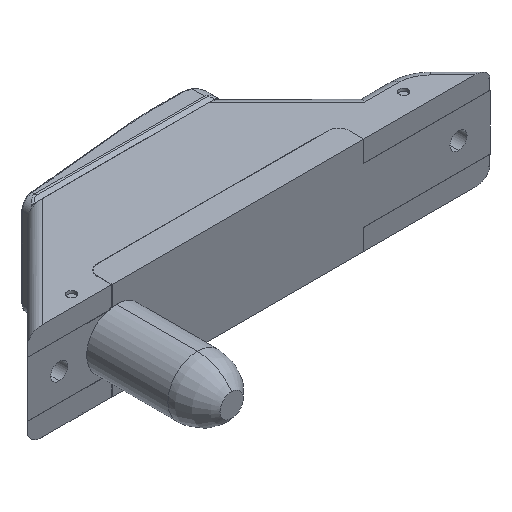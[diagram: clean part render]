
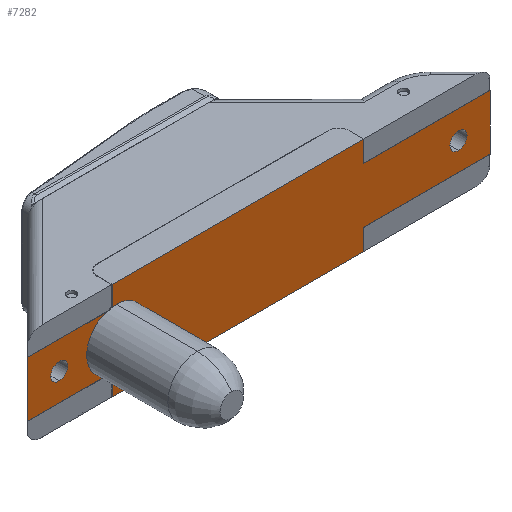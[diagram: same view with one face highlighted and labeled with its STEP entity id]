
A CAD part, isometric view. The second image highlights one B-rep face of the part: STEP entity #7282.
In plain terms, the highlighted planar face has unit normal (0, -1, 0).
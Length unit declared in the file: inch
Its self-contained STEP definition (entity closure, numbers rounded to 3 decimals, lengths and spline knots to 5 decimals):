
#256 = DIRECTION ( 'NONE',  ( 1., 0., 0. ) ) ;
#645 = VERTEX_POINT ( 'NONE', #10518 ) ;
#721 = AXIS2_PLACEMENT_3D ( 'NONE', #12316, #19753, #5145 ) ;
#751 = LINE ( 'NONE', #17340, #13006 ) ;
#1082 = EDGE_CURVE ( 'NONE', #11767, #3046, #7581, .T. ) ;
#1728 = ORIENTED_EDGE ( 'NONE', *, *, #21651, .F. ) ;
#1779 = DIRECTION ( 'NONE',  ( 0., 1., 0. ) ) ;
#1852 = VECTOR ( 'NONE', #8004, 39.37008 ) ;
#2121 = ORIENTED_EDGE ( 'NONE', *, *, #2575, .T. ) ;
#2172 = EDGE_LOOP ( 'NONE', ( #8012, #22406 ) ) ;
#2292 = CARTESIAN_POINT ( 'NONE',  ( -1.7475, 0., -0.3295 ) ) ;
#2575 = EDGE_CURVE ( 'NONE', #12322, #19292, #22294, .T. ) ;
#2717 = EDGE_CURVE ( 'NONE', #645, #20042, #22975, .T. ) ;
#3046 = VERTEX_POINT ( 'NONE', #3375 ) ;
#3112 = ORIENTED_EDGE ( 'NONE', *, *, #18603, .T. ) ;
#3375 = CARTESIAN_POINT ( 'NONE',  ( 2.75, 0., 0.3295 ) ) ;
#3533 = DIRECTION ( 'NONE',  ( 0., 0., 1. ) ) ;
#3560 = DIRECTION ( 'NONE',  ( 0., 0., -1. ) ) ;
#3926 = VERTEX_POINT ( 'NONE', #20577 ) ;
#3939 = CARTESIAN_POINT ( 'NONE',  ( -2.75, 0., 0.3295 ) ) ;
#4244 = VERTEX_POINT ( 'NONE', #21655 ) ;
#4393 = AXIS2_PLACEMENT_3D ( 'NONE', #16802, #11407, #18379 ) ;
#4523 = LINE ( 'NONE', #11947, #18668 ) ;
#4531 = DIRECTION ( 'NONE',  ( 0., 0., 1. ) ) ;
#4889 = PLANE ( 'NONE',  #721 ) ;
#5145 = DIRECTION ( 'NONE',  ( -1., 0., 0. ) ) ;
#5361 = AXIS2_PLACEMENT_3D ( 'NONE', #18491, #1779, #18254 ) ;
#5395 = VERTEX_POINT ( 'NONE', #21237 ) ;
#5431 = VERTEX_POINT ( 'NONE', #10390 ) ;
#5492 = VERTEX_POINT ( 'NONE', #12221 ) ;
#6142 = EDGE_CURVE ( 'NONE', #5492, #4244, #21173, .T. ) ;
#6215 = DIRECTION ( 'NONE',  ( 0., 0., 1. ) ) ;
#6292 = CARTESIAN_POINT ( 'NONE',  ( -2.75, 0., -0.3295 ) ) ;
#6329 = ORIENTED_EDGE ( 'NONE', *, *, #23111, .T. ) ;
#6549 = VECTOR ( 'NONE', #18683, 39.37008 ) ;
#6588 = CARTESIAN_POINT ( 'NONE',  ( 1.2475, 0., 0.3295 ) ) ;
#6830 = EDGE_CURVE ( 'NONE', #17637, #20972, #16984, .T. ) ;
#7037 = EDGE_CURVE ( 'NONE', #5395, #5431, #20561, .T. ) ;
#7069 = DIRECTION ( 'NONE',  ( 0., 1., 0. ) ) ;
#7282 = ADVANCED_FACE ( 'NONE', ( #9140, #21578, #17954 ), #4889, .F. ) ;
#7323 = ORIENTED_EDGE ( 'NONE', *, *, #7641, .T. ) ;
#7332 = ORIENTED_EDGE ( 'NONE', *, *, #16419, .F. ) ;
#7581 = LINE ( 'NONE', #3939, #19669 ) ;
#7641 = EDGE_CURVE ( 'NONE', #11767, #12177, #8272, .T. ) ;
#7983 = DIRECTION ( 'NONE',  ( -1., 0., 0. ) ) ;
#8004 = DIRECTION ( 'NONE',  ( 0., 0., -1. ) ) ;
#8012 = ORIENTED_EDGE ( 'NONE', *, *, #7037, .T. ) ;
#8160 = ORIENTED_EDGE ( 'NONE', *, *, #1082, .F. ) ;
#8272 = LINE ( 'NONE', #13999, #22144 ) ;
#8630 = VERTEX_POINT ( 'NONE', #19584 ) ;
#9140 = FACE_BOUND ( 'NONE', #2172, .T. ) ;
#9239 = CARTESIAN_POINT ( 'NONE',  ( 2.375, 0., 0. ) ) ;
#9565 = EDGE_CURVE ( 'NONE', #5431, #5395, #14679, .T. ) ;
#10046 = CARTESIAN_POINT ( 'NONE',  ( 2.375, 0., -0.102 ) ) ;
#10245 = DIRECTION ( 'NONE',  ( 1., 0., 0. ) ) ;
#10248 = CARTESIAN_POINT ( 'NONE',  ( -2.375, 0., 0. ) ) ;
#10390 = CARTESIAN_POINT ( 'NONE',  ( -2.375, 0., -0.102 ) ) ;
#10518 = CARTESIAN_POINT ( 'NONE',  ( 2.75, 0., -0.3295 ) ) ;
#11299 = CARTESIAN_POINT ( 'NONE',  ( 1.2475, 0., -0.3295 ) ) ;
#11407 = DIRECTION ( 'NONE',  ( 0., 1., 0. ) ) ;
#11448 = VECTOR ( 'NONE', #17072, 39.37008 ) ;
#11574 = EDGE_CURVE ( 'NONE', #20042, #8630, #18436, .T. ) ;
#11630 = CIRCLE ( 'NONE', #17480, 0.102 ) ;
#11767 = VERTEX_POINT ( 'NONE', #6588 ) ;
#11940 = EDGE_CURVE ( 'NONE', #19292, #12322, #11630, .T. ) ;
#11947 = CARTESIAN_POINT ( 'NONE',  ( -2.75, 0., -0.5795 ) ) ;
#12117 = ORIENTED_EDGE ( 'NONE', *, *, #14788, .F. ) ;
#12177 = VERTEX_POINT ( 'NONE', #15214 ) ;
#12221 = CARTESIAN_POINT ( 'NONE',  ( -1.7475, 0., -0.3295 ) ) ;
#12316 = CARTESIAN_POINT ( 'NONE',  ( -2.75, 0., 0.5795 ) ) ;
#12322 = VERTEX_POINT ( 'NONE', #15821 ) ;
#12935 = VECTOR ( 'NONE', #22570, 39.37008 ) ;
#13006 = VECTOR ( 'NONE', #10245, 39.37008 ) ;
#13070 = DIRECTION ( 'NONE',  ( 1., 0., 0. ) ) ;
#13149 = LINE ( 'NONE', #16597, #11448 ) ;
#13169 = AXIS2_PLACEMENT_3D ( 'NONE', #10248, #20979, #4531 ) ;
#13656 = ORIENTED_EDGE ( 'NONE', *, *, #6142, .T. ) ;
#13999 = CARTESIAN_POINT ( 'NONE',  ( 1.2475, 0., 0.3295 ) ) ;
#14029 = DIRECTION ( 'NONE',  ( 0., 0., -1. ) ) ;
#14679 = CIRCLE ( 'NONE', #5361, 0.102 ) ;
#14788 = EDGE_CURVE ( 'NONE', #20128, #12177, #751, .T. ) ;
#14896 = LINE ( 'NONE', #22331, #12935 ) ;
#15206 = EDGE_CURVE ( 'NONE', #20972, #20128, #13149, .T. ) ;
#15214 = CARTESIAN_POINT ( 'NONE',  ( 1.2475, 0., 0.5795 ) ) ;
#15821 = CARTESIAN_POINT ( 'NONE',  ( 2.375, 0., 0.102 ) ) ;
#16146 = CARTESIAN_POINT ( 'NONE',  ( -2.75, 0., 0.3295 ) ) ;
#16403 = EDGE_LOOP ( 'NONE', ( #20393, #19644, #1728, #8160, #7323, #12117, #22839, #21229, #3112, #7332, #13656, #6329 ) ) ;
#16419 = EDGE_CURVE ( 'NONE', #5492, #3926, #14896, .T. ) ;
#16597 = CARTESIAN_POINT ( 'NONE',  ( -1.7475, 0., 0.3295 ) ) ;
#16802 = CARTESIAN_POINT ( 'NONE',  ( 2.375, 0., 0. ) ) ;
#16984 = LINE ( 'NONE', #20860, #6549 ) ;
#16990 = VECTOR ( 'NONE', #20087, 39.37008 ) ;
#17072 = DIRECTION ( 'NONE',  ( 0., 0., 1. ) ) ;
#17101 = VECTOR ( 'NONE', #3560, 39.37008 ) ;
#17340 = CARTESIAN_POINT ( 'NONE',  ( -2.75, 0., 0.5795 ) ) ;
#17469 = LINE ( 'NONE', #21341, #21355 ) ;
#17480 = AXIS2_PLACEMENT_3D ( 'NONE', #9239, #7069, #3533 ) ;
#17637 = VERTEX_POINT ( 'NONE', #16146 ) ;
#17954 = FACE_OUTER_BOUND ( 'NONE', #16403, .T. ) ;
#18254 = DIRECTION ( 'NONE',  ( 0., 0., 1. ) ) ;
#18379 = DIRECTION ( 'NONE',  ( 0., 0., 1. ) ) ;
#18436 = LINE ( 'NONE', #23769, #17101 ) ;
#18491 = CARTESIAN_POINT ( 'NONE',  ( -2.375, 0., 0. ) ) ;
#18603 = EDGE_CURVE ( 'NONE', #17637, #3926, #18623, .T. ) ;
#18623 = LINE ( 'NONE', #23852, #16990 ) ;
#18668 = VECTOR ( 'NONE', #256, 39.37008 ) ;
#18683 = DIRECTION ( 'NONE',  ( 1., 0., 0. ) ) ;
#18733 = CARTESIAN_POINT ( 'NONE',  ( -1.7475, 0., 0.3295 ) ) ;
#18838 = EDGE_LOOP ( 'NONE', ( #2121, #20119 ) ) ;
#18980 = CARTESIAN_POINT ( 'NONE',  ( -1.7475, 0., 0.5795 ) ) ;
#19292 = VERTEX_POINT ( 'NONE', #10046 ) ;
#19584 = CARTESIAN_POINT ( 'NONE',  ( 1.2475, 0., -0.5795 ) ) ;
#19644 = ORIENTED_EDGE ( 'NONE', *, *, #2717, .F. ) ;
#19669 = VECTOR ( 'NONE', #13070, 39.37008 ) ;
#19753 = DIRECTION ( 'NONE',  ( 0., 1., 0. ) ) ;
#20042 = VERTEX_POINT ( 'NONE', #11299 ) ;
#20087 = DIRECTION ( 'NONE',  ( 0., 0., -1. ) ) ;
#20119 = ORIENTED_EDGE ( 'NONE', *, *, #11940, .T. ) ;
#20128 = VERTEX_POINT ( 'NONE', #18980 ) ;
#20393 = ORIENTED_EDGE ( 'NONE', *, *, #11574, .F. ) ;
#20561 = CIRCLE ( 'NONE', #13169, 0.102 ) ;
#20577 = CARTESIAN_POINT ( 'NONE',  ( -2.75, 0., -0.3295 ) ) ;
#20860 = CARTESIAN_POINT ( 'NONE',  ( -2.75, 0., 0.3295 ) ) ;
#20972 = VERTEX_POINT ( 'NONE', #18733 ) ;
#20979 = DIRECTION ( 'NONE',  ( 0., 1., 0. ) ) ;
#21173 = LINE ( 'NONE', #2292, #1852 ) ;
#21229 = ORIENTED_EDGE ( 'NONE', *, *, #6830, .F. ) ;
#21237 = CARTESIAN_POINT ( 'NONE',  ( -2.375, 0., 0.102 ) ) ;
#21341 = CARTESIAN_POINT ( 'NONE',  ( 2.75, 0., 0.5795 ) ) ;
#21355 = VECTOR ( 'NONE', #14029, 39.37008 ) ;
#21578 = FACE_BOUND ( 'NONE', #18838, .T. ) ;
#21651 = EDGE_CURVE ( 'NONE', #3046, #645, #17469, .T. ) ;
#21655 = CARTESIAN_POINT ( 'NONE',  ( -1.7475, 0., -0.5795 ) ) ;
#22144 = VECTOR ( 'NONE', #6215, 39.37008 ) ;
#22294 = CIRCLE ( 'NONE', #4393, 0.102 ) ;
#22331 = CARTESIAN_POINT ( 'NONE',  ( -2.75, 0., -0.3295 ) ) ;
#22406 = ORIENTED_EDGE ( 'NONE', *, *, #9565, .T. ) ;
#22570 = DIRECTION ( 'NONE',  ( -1., 0., 0. ) ) ;
#22839 = ORIENTED_EDGE ( 'NONE', *, *, #15206, .F. ) ;
#22975 = LINE ( 'NONE', #6292, #23789 ) ;
#23111 = EDGE_CURVE ( 'NONE', #4244, #8630, #4523, .T. ) ;
#23769 = CARTESIAN_POINT ( 'NONE',  ( 1.2475, 0., -0.3295 ) ) ;
#23789 = VECTOR ( 'NONE', #7983, 39.37008 ) ;
#23852 = CARTESIAN_POINT ( 'NONE',  ( -2.75, 0., 0.5795 ) ) ;
